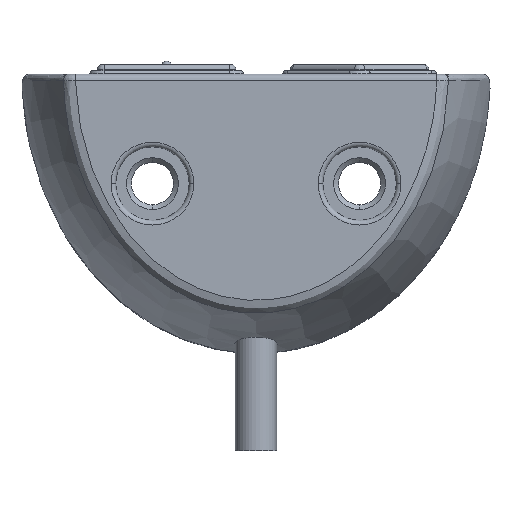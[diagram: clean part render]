
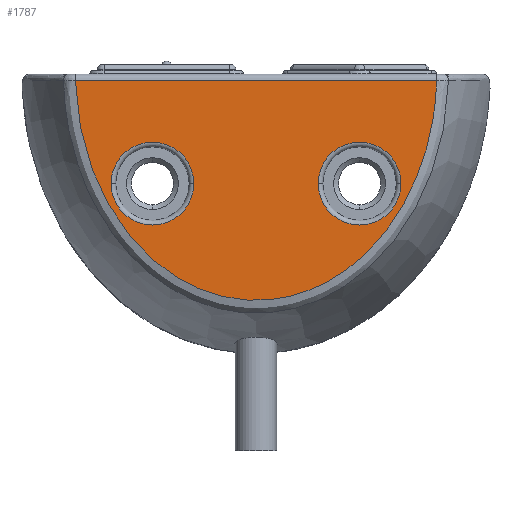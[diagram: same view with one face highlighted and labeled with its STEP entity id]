
A CAD part, front view. The second image highlights one B-rep face of the part: STEP entity #1787.
In plain terms, the highlighted planar face has unit normal (0, -1, 0).
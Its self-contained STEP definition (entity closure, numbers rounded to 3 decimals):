
#44 = ORIENTED_EDGE ( 'NONE', *, *, #1193, .T. ) ;
#57 = ORIENTED_EDGE ( 'NONE', *, *, #1190, .T. ) ;
#58 = ORIENTED_EDGE ( 'NONE', *, *, #1046, .T. ) ;
#65 = ORIENTED_EDGE ( 'NONE', *, *, #1063, .T. ) ;
#72 = ORIENTED_EDGE ( 'NONE', *, *, #1191, .T. ) ;
#73 = ORIENTED_EDGE ( 'NONE', *, *, #1192, .T. ) ;
#387 = B_SPLINE_CURVE_WITH_KNOTS ( 'NONE', 3,
 ( #828, #832, #833, #834, #835, #836, #837, #838, #839, #840, #841, #842, #843, #844, #845, #846, #847, #848, #849, #850, #851, #852, #853, #854, #855, #856, #857, #858, #859, #860, #861, #862, #863, #864, #865, #866, #867, #868, #869, #870, #871, #872, #873, #874, #875, #876, #877, #878, #879, #880, #881, #882, #883, #884 ),
 .UNSPECIFIED., .F., .F.,
 ( 4, 2, 2, 2, 2, 2, 2, 2, 2, 2, 2, 2, 2, 2, 2, 2, 2, 2, 2, 2, 2, 2, 2, 2, 2, 2, 4 ),
 ( 0.001, 0.003, 0.005, 0.009, 0.011, 0.013, 0.017, 0.022, 0.023, 0.024, 0.026, 0.028, 0.03, 0.034, 0.036, 0.038, 0.043, 0.044, 0.045, 0.047, 0.049, 0.051, 0.055, 0.057, 0.059, 0.064, 0.068 ),
 .UNSPECIFIED. ) ;
#827 = CARTESIAN_POINT ( 'NONE',  ( 11., -6.5, 3.365 ) ) ;
#828 = CARTESIAN_POINT ( 'NONE',  ( -19.189, -6.5, 14.3 ) ) ;
#829 = DIRECTION ( 'NONE',  ( 0., 1., 0. ) ) ;
#830 = DIRECTION ( 'NONE',  ( -1., 0., 0. ) ) ;
#831 = CARTESIAN_POINT ( 'NONE',  ( -11., -6.5, 3.365 ) ) ;
#832 = CARTESIAN_POINT ( 'NONE',  ( -19.173, -6.5, 13.601 ) ) ;
#833 = CARTESIAN_POINT ( 'NONE',  ( -19.132, -6.5, 12.902 ) ) ;
#834 = CARTESIAN_POINT ( 'NONE',  ( -19.001, -6.5, 11.516 ) ) ;
#835 = CARTESIAN_POINT ( 'NONE',  ( -18.911, -6.5, 10.828 ) ) ;
#836 = CARTESIAN_POINT ( 'NONE',  ( -18.57, -6.5, 8.779 ) ) ;
#837 = CARTESIAN_POINT ( 'NONE',  ( -18.246, -6.5, 7.434 ) ) ;
#838 = CARTESIAN_POINT ( 'NONE',  ( -17.609, -6.5, 5.447 ) ) ;
#839 = CARTESIAN_POINT ( 'NONE',  ( -17.369, -6.5, 4.788 ) ) ;
#840 = CARTESIAN_POINT ( 'NONE',  ( -16.843, -6.5, 3.497 ) ) ;
#841 = CARTESIAN_POINT ( 'NONE',  ( -16.556, -6.5, 2.865 ) ) ;
#842 = CARTESIAN_POINT ( 'NONE',  ( -15.621, -6.5, 1.007 ) ) ;
#843 = CARTESIAN_POINT ( 'NONE',  ( -14.899, -6.5, -0.179 ) ) ;
#844 = CARTESIAN_POINT ( 'NONE',  ( -13.232, -6.5, -2.43 ) ) ;
#845 = CARTESIAN_POINT ( 'NONE',  ( -12.308, -6.5, -3.466 ) ) ;
#846 = CARTESIAN_POINT ( 'NONE',  ( -11.026, -6.5, -4.639 ) ) ;
#847 = CARTESIAN_POINT ( 'NONE',  ( -10.763, -6.5, -4.867 ) ) ;
#848 = CARTESIAN_POINT ( 'NONE',  ( -10.224, -6.5, -5.311 ) ) ;
#849 = CARTESIAN_POINT ( 'NONE',  ( -9.947, -6.5, -5.527 ) ) ;
#850 = CARTESIAN_POINT ( 'NONE',  ( -9.102, -6.5, -6.148 ) ) ;
#851 = CARTESIAN_POINT ( 'NONE',  ( -8.52, -6.5, -6.528 ) ) ;
#852 = CARTESIAN_POINT ( 'NONE',  ( -7.316, -6.5, -7.217 ) ) ;
#853 = CARTESIAN_POINT ( 'NONE',  ( -6.695, -6.5, -7.526 ) ) ;
#854 = CARTESIAN_POINT ( 'NONE',  ( -5.409, -6.5, -8.067 ) ) ;
#855 = CARTESIAN_POINT ( 'NONE',  ( -4.743, -6.5, -8.3 ) ) ;
#856 = CARTESIAN_POINT ( 'NONE',  ( -2.734, -6.5, -8.853 ) ) ;
#857 = CARTESIAN_POINT ( 'NONE',  ( -1.362, -6.5, -9.043 ) ) ;
#858 = CARTESIAN_POINT ( 'NONE',  ( 0.745, -6.5, -9.037 ) ) ;
#859 = CARTESIAN_POINT ( 'NONE',  ( 1.441, -6.5, -8.986 ) ) ;
#860 = CARTESIAN_POINT ( 'NONE',  ( 2.824, -6.5, -8.789 ) ) ;
#861 = CARTESIAN_POINT ( 'NONE',  ( 3.514, -6.5, -8.643 ) ) ;
#862 = CARTESIAN_POINT ( 'NONE',  ( 5.527, -6.5, -8.073 ) ) ;
#863 = CARTESIAN_POINT ( 'NONE',  ( 6.797, -6.5, -7.523 ) ) ;
#864 = CARTESIAN_POINT ( 'NONE',  ( 8.307, -6.5, -6.648 ) ) ;
#865 = CARTESIAN_POINT ( 'NONE',  ( 8.605, -6.5, -6.462 ) ) ;
#866 = CARTESIAN_POINT ( 'NONE',  ( 9.188, -6.5, -6.077 ) ) ;
#867 = CARTESIAN_POINT ( 'NONE',  ( 9.473, -6.5, -5.877 ) ) ;
#868 = CARTESIAN_POINT ( 'NONE',  ( 10.308, -6.5, -5.256 ) ) ;
#869 = CARTESIAN_POINT ( 'NONE',  ( 10.84, -6.5, -4.813 ) ) ;
#870 = CARTESIAN_POINT ( 'NONE',  ( 11.856, -6.5, -3.876 ) ) ;
#871 = CARTESIAN_POINT ( 'NONE',  ( 12.341, -6.5, -3.381 ) ) ;
#872 = CARTESIAN_POINT ( 'NONE',  ( 13.266, -6.5, -2.34 ) ) ;
#873 = CARTESIAN_POINT ( 'NONE',  ( 13.707, -6.5, -1.794 ) ) ;
#874 = CARTESIAN_POINT ( 'NONE',  ( 14.941, -6.5, -0.114 ) ) ;
#875 = CARTESIAN_POINT ( 'NONE',  ( 15.655, -6.5, 1.068 ) ) ;
#876 = CARTESIAN_POINT ( 'NONE',  ( 16.582, -6.5, 2.921 ) ) ;
#877 = CARTESIAN_POINT ( 'NONE',  ( 16.867, -6.5, 3.552 ) ) ;
#878 = CARTESIAN_POINT ( 'NONE',  ( 17.39, -6.5, 4.841 ) ) ;
#879 = CARTESIAN_POINT ( 'NONE',  ( 17.628, -6.5, 5.501 ) ) ;
#880 = CARTESIAN_POINT ( 'NONE',  ( 18.26, -6.5, 7.483 ) ) ;
#881 = CARTESIAN_POINT ( 'NONE',  ( 18.578, -6.5, 8.823 ) ) ;
#882 = CARTESIAN_POINT ( 'NONE',  ( 19.026, -6.5, 11.536 ) ) ;
#883 = CARTESIAN_POINT ( 'NONE',  ( 19.156, -6.5, 12.91 ) ) ;
#884 = CARTESIAN_POINT ( 'NONE',  ( 19.189, -6.5, 14.3 ) ) ;
#885 = DIRECTION ( 'NONE',  ( 0., 1., 0. ) ) ;
#886 = DIRECTION ( 'NONE',  ( -1., 0., 0. ) ) ;
#887 = CARTESIAN_POINT ( 'NONE',  ( -19.197, -6.5, 14.3 ) ) ;
#888 = DIRECTION ( 'NONE',  ( -1., 0., 0. ) ) ;
#1046 = EDGE_CURVE ( 'NONE', #1360, #1347, #3169, .T. ) ;
#1063 = EDGE_CURVE ( 'NONE', #1383, #1396, #3177, .T. ) ;
#1190 = EDGE_CURVE ( 'NONE', #1396, #1383, #3622, .T. ) ;
#1191 = EDGE_CURVE ( 'NONE', #1287, #1309, #387, .T. ) ;
#1192 = EDGE_CURVE ( 'NONE', #1347, #1360, #3623, .T. ) ;
#1193 = EDGE_CURVE ( 'NONE', #1309, #1287, #3620, .T. ) ;
#1287 = VERTEX_POINT ( 'NONE', #3939 ) ;
#1309 = VERTEX_POINT ( 'NONE', #3961 ) ;
#1347 = VERTEX_POINT ( 'NONE', #3999 ) ;
#1360 = VERTEX_POINT ( 'NONE', #4012 ) ;
#1383 = VERTEX_POINT ( 'NONE', #4035 ) ;
#1396 = VERTEX_POINT ( 'NONE', #4048 ) ;
#1560 = CARTESIAN_POINT ( 'NONE',  ( -11., -6.5, 3.365 ) ) ;
#1584 = DIRECTION ( 'NONE',  ( 0., 1., 0. ) ) ;
#1585 = DIRECTION ( 'NONE',  ( -1., 0., 0. ) ) ;
#1655 = CARTESIAN_POINT ( 'NONE',  ( 11., -6.5, 3.365 ) ) ;
#1662 = DIRECTION ( 'NONE',  ( 0., 1., 0. ) ) ;
#1663 = DIRECTION ( 'NONE',  ( -1., 0., 0. ) ) ;
#1787 = ADVANCED_FACE ( 'NONE', ( #3681, #3682, #3686 ), #4440, .F. ) ;
#2880 = EDGE_LOOP ( 'NONE', ( #65, #57 ) ) ;
#2893 = EDGE_LOOP ( 'NONE', ( #58, #73 ) ) ;
#2894 = EDGE_LOOP ( 'NONE', ( #72, #44 ) ) ;
#3169 = CIRCLE ( 'NONE', #3248, 4.4 ) ;
#3177 = CIRCLE ( 'NONE', #3253, 4.4 ) ;
#3248 = AXIS2_PLACEMENT_3D ( 'NONE', #1560, #1584, #1585 ) ;
#3253 = AXIS2_PLACEMENT_3D ( 'NONE', #1655, #1662, #1663 ) ;
#3330 = AXIS2_PLACEMENT_3D ( 'NONE', #831, #885, #886 ) ;
#3331 = AXIS2_PLACEMENT_3D ( 'NONE', #827, #829, #830 ) ;
#3343 = AXIS2_PLACEMENT_3D ( 'NONE', #4439, #4441, #4442 ) ;
#3606 = VECTOR ( 'NONE', #888, 1000. ) ;
#3620 = LINE ( 'NONE', #887, #3606 ) ;
#3622 = CIRCLE ( 'NONE', #3331, 4.4 ) ;
#3623 = CIRCLE ( 'NONE', #3330, 4.4 ) ;
#3681 = FACE_BOUND ( 'NONE', #2880, .T. ) ;
#3682 = FACE_BOUND ( 'NONE', #2893, .T. ) ;
#3686 = FACE_OUTER_BOUND ( 'NONE', #2894, .T. ) ;
#3939 = CARTESIAN_POINT ( 'NONE',  ( -19.189, -6.5, 14.3 ) ) ;
#3961 = CARTESIAN_POINT ( 'NONE',  ( 19.189, -6.5, 14.3 ) ) ;
#3999 = CARTESIAN_POINT ( 'NONE',  ( -6.6, -6.5, 3.365 ) ) ;
#4012 = CARTESIAN_POINT ( 'NONE',  ( -15.4, -6.5, 3.365 ) ) ;
#4035 = CARTESIAN_POINT ( 'NONE',  ( 6.6, -6.5, 3.365 ) ) ;
#4048 = CARTESIAN_POINT ( 'NONE',  ( 15.4, -6.5, 3.365 ) ) ;
#4439 = CARTESIAN_POINT ( 'NONE',  ( -25., -6.5, 15. ) ) ;
#4440 = PLANE ( 'NONE',  #3343 ) ;
#4441 = DIRECTION ( 'NONE',  ( 0., 1., 0. ) ) ;
#4442 = DIRECTION ( 'NONE',  ( -1., 0., 0. ) ) ;
